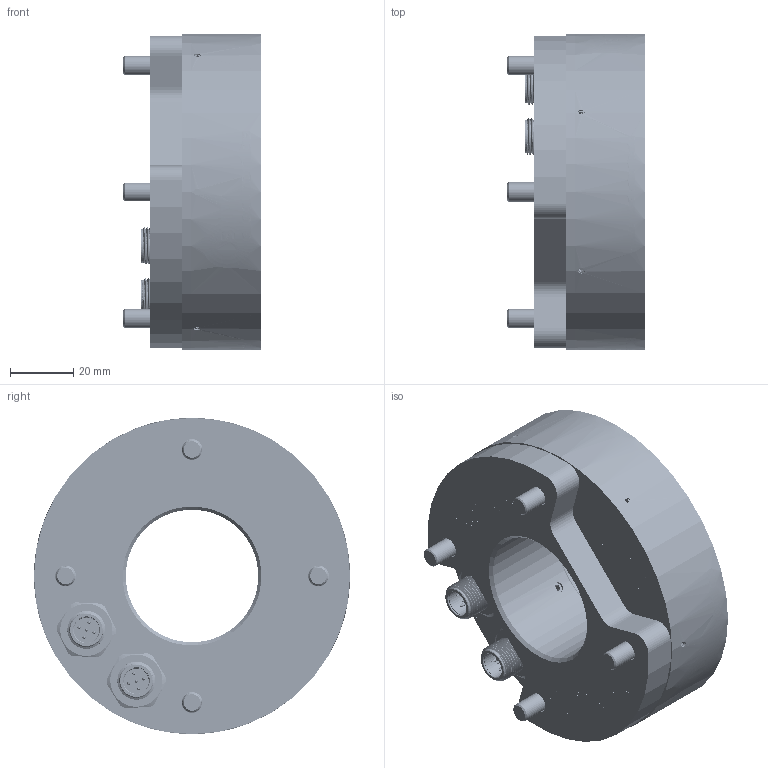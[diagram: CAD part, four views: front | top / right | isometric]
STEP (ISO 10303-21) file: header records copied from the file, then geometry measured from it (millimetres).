
FILE_DESCRIPTION (( 'STEP AP203' ), '1' );
FILE_NAME ('0E012336_IC-BASE F 100_50_zum_Versenden.STEP', '2023-12-20T06:19:50', ( '' ), ( '' ), 'SwSTEP 2.0', 'SolidWorks 2023', '' );
FILE_SCHEMA (( 'CONFIG_CONTROL_DESIGN' ));
Length unit declared in the file: millimetre
Products named in the file (1): 0E012336_IC-BASE F 100_50_zum_Versenden
Bounding box: 43.4 x 100 x 100 mm (x, y, z)
Surface area: 86470 mm2 (no closed solid volume)
Topology: 0 solids, 68 shells, 6448 faces, 17923 edges, 12177 vertices
Faces by surface type: plane 3477, bspline 2200, cylinder 508, cone 172, torus 91
Entity records: 325638 total; most frequent: CARTESIAN_POINT 175194, ORIENTED_EDGE 35253, DIRECTION 22785, EDGE_CURVE 17907, VERTEX_POINT 12177, LINE 11221, VECTOR 11221, EDGE_LOOP 7224
